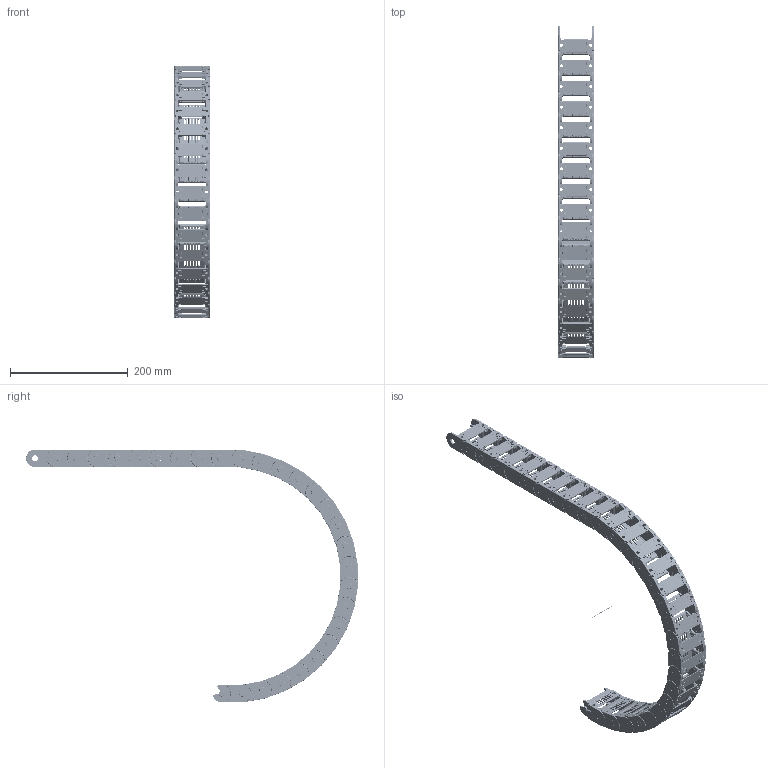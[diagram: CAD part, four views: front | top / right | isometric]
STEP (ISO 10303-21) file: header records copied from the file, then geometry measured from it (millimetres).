
FILE_DESCRIPTION((''),'2;1');
FILE_NAME('C:\Uebbing\PARAMETERKETTEN\KOLIBRI\Kol_30_060_1\KOLIBRI 30_060_1_R200.stp','2012-03-05T09:18:39',('Uebbing'),(''),'Autodesk Inventor 10','Autodesk Inventor 10','');
FILE_SCHEMA(('AUTOMOTIVE_DESIGN { 1 0 10303 214 1 1 1 1 }'));
Length unit declared in the file: millimetre
Products named in the file (5): KOLIBRI 30_060_1_PARAMETRISCH; Achse; Kolibri 30_060_1 Glied; Kol 30_060_1 Lasche; Kol 30_060_0 Klappsteg
Assembly tree (31 placements, depth 3):
  KOLIBRI 30_060_1_PARAMETRISCH
    Achse
    Kolibri 30_060_1 Glied  x28
      Kol 30_060_1 Lasche
      Kol 30_060_0 Klappsteg
Bounding box: 60 x 564.07 x 430 mm (x, y, z)
Volume: 441431.4 mm3; surface area: 421097.4 mm2
Topology: 57 solids, 57 shells, 20051 faces, 55808 edges, 36319 vertices
Faces by surface type: plane 8430, bspline 6748, cylinder 3977, torus 644, cone 168, sphere 84
Full cylindrical faces by diameter (mm): 1 x1, 1.166 x28, 2.048 x28, 2.8 x168, 5.1 x28, 10 x28, 10.1 x28
Entity records: 26427 total; most frequent: CARTESIAN_POINT 8646, ORIENTED_EDGE 3906, DIRECTION 3287, EDGE_CURVE 1953, VERTEX_POINT 1286, VECTOR 1211, LINE 1211, AXIS2_PLACEMENT_3D 1038
